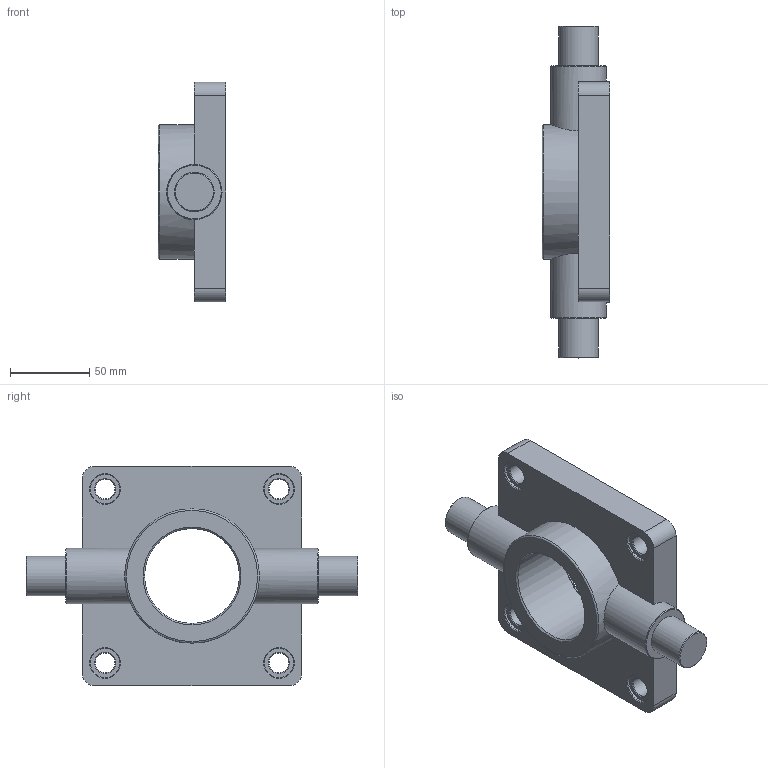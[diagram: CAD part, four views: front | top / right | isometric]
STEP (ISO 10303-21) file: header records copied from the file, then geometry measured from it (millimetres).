
FILE_DESCRIPTION(/* description */ ('STEP AP203'),/* implementation_level */ '2;1');
FILE_NAME(/* name */ 'F-SI125FTC-SI',/* time_stamp */ '2024-09-16T14:12:31+02:00',/* author */ ('License CC BY-ND 4.0'),/* organization */ ('CADENAS'),/* preprocessor_version */ 'ST-DEVELOPER v19.3',/* originating_system */ 'PARTsolutions',/* authorisation */ ' ');
FILE_SCHEMA (('CONFIG_CONTROL_DESIGN'));
Length unit declared in the file: millimetre
Products named in the file (1): F-SI125FTC-SI
Bounding box: 43 x 210 x 139 mm (x, y, z)
Volume: 454183.1 mm3; surface area: 67065.7 mm2
Topology: 1 solids, 1 shells, 54 faces, 116 edges, 70 vertices
Faces by surface type: cylinder 19, cone 18, plane 16, torus 1
Full cylindrical faces by diameter (mm): 12.5 x4, 18.5 x4, 25 x2, 35 x2, 60 x1, 62 x1, 85 x1
Entity records: 1362 total; most frequent: DIRECTION 246, CARTESIAN_POINT 239, ORIENTED_EDGE 162, AXIS2_PLACEMENT_3D 112, EDGE_LOOP 104, FACE_BOUND 104, EDGE_CURVE 81, VERTEX_POINT 69
